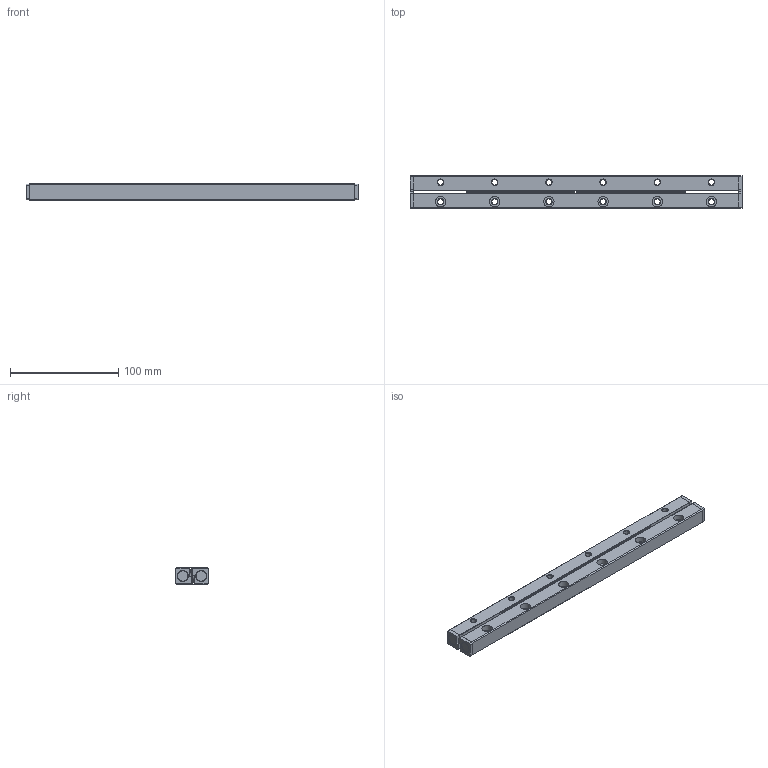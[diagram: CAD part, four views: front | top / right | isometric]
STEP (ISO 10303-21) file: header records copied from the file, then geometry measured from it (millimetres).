
FILE_DESCRIPTION(/* description */ ('Unknown'),/* implementation_level */ '2;1');
FILE_NAME(/* name */ 'VR6-300x20Z',/* time_stamp */ '2025-06-12T09:18:10+08:00',/* author */ ('Unknown'),/* organization */ ('Unknown'),/* preprocessor_version */ 'ST-DEVELOPER v18.102',/* originating_system */ 'Solid Edge',/* authorisation */ 'Unknown');
FILE_SCHEMA (('AUTOMOTIVE_DESIGN {1 0 10303 214 3 1 1}'));
Length unit declared in the file: millimetre
Products named in the file (3): VR6-300x20Z; VR6-300_20Z Roller guide; VR6-300_20Z Roller cage
Assembly tree (3 placements, depth 2):
  VR6-300x20Z
    VR6-300_20Z Roller guide  x2
    VR6-300_20Z Roller cage
Bounding box: 306.4 x 30 x 15 mm (x, y, z)
Volume: 116960.7 mm3; surface area: 47624.7 mm2
Topology: 3 solids, 3 shells, 368 faces, 966 edges, 620 vertices
Faces by surface type: plane 256, cone 68, cylinder 44
Full cylindrical faces by diameter (mm): 5.2 x12, 6 x20, 9.5 x12
Entity records: 9128 total; most frequent: CARTESIAN_POINT 1540, DIRECTION 1525, ORIENTED_EDGE 1438, EDGE_CURVE 719, LINE 519, VECTOR 519, VERTEX_POINT 518, AXIS2_PLACEMENT_3D 503
